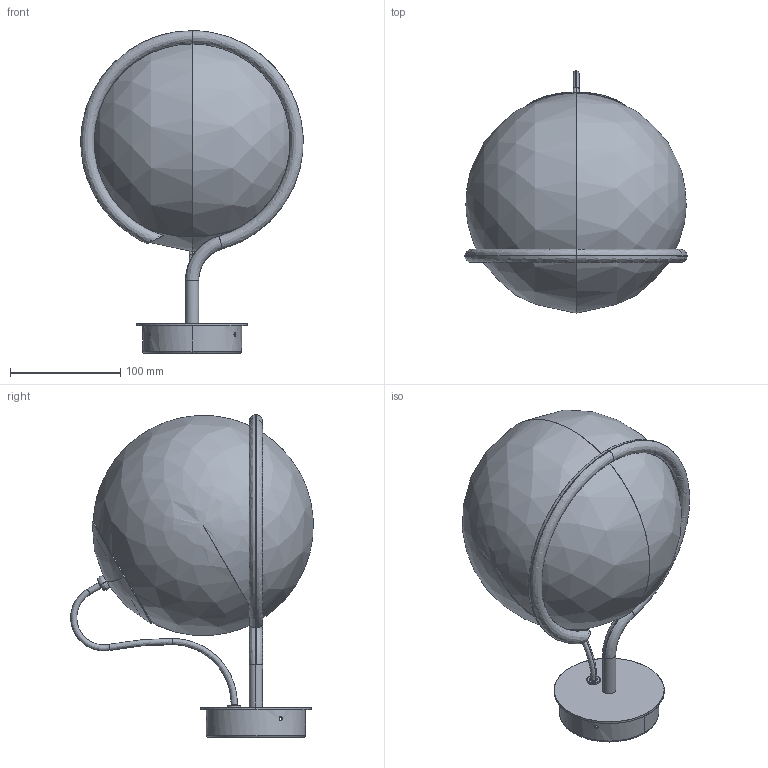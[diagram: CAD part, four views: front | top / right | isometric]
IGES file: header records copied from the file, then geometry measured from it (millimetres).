
Global section: file name: /Users/nicholas/Desktop/Architects/Model 238:1 3D/Model 238:1.igs; preprocessor: Trout Lake IGES 012 Jul 15 2015; date: 180809.123218; units: millimetre
Bounding box: 201.92 x 220.27 x 293 mm (x, y, z)
Surface area: 341116.4 mm2 (no closed solid volume)
Topology: 0 solids, 0 shells, 122 faces, 727 edges, 723 vertices
Faces by surface type: bspline 122
